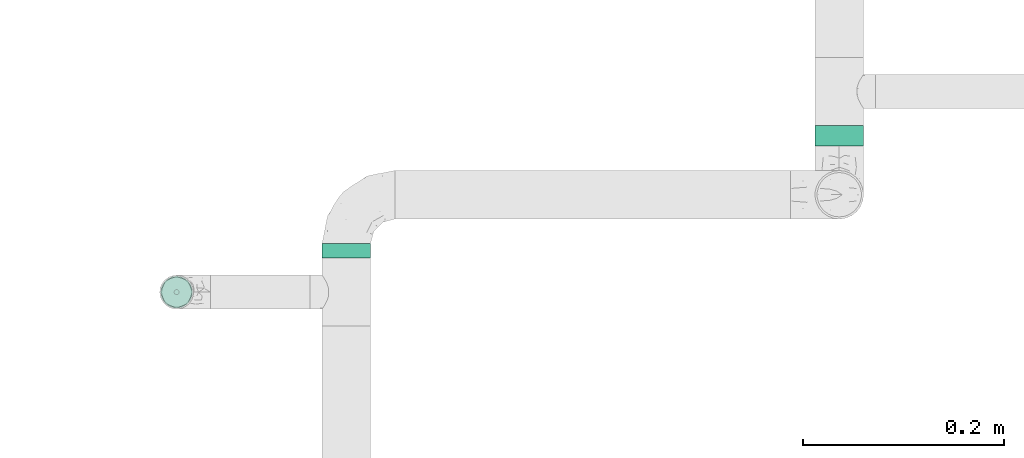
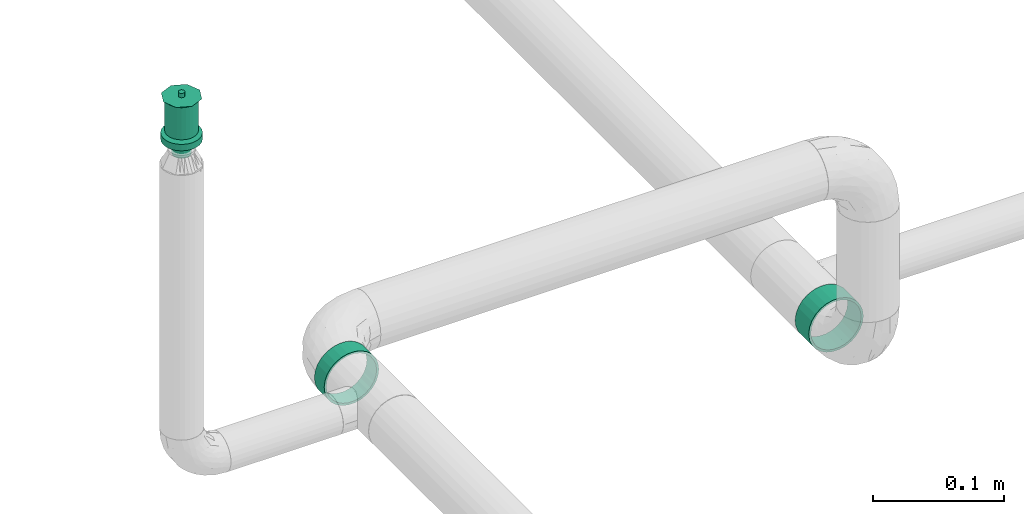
# One storey, part 49 of 157: 2 flow segments, 1 flow terminal.
"""IFC2X3 building model written with IfcOpenShell, lengths in millimetres."""

from ifc_helpers import new_model, entity, si_unit, converted_unit, derived_unit, direction, frame, origin_with_axes, origin_2d_with_axis, place, context, subcontext, project, spatial, hollow_circle, extrude, open_shell, surface_model, source, transform, mapped, type_object, element, save


model = new_model("IFC2X3")

# Units and contexts
model_context = context("Model", 3, precision=0.01, world=frame((0.0, 4.29681676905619e-09, 0.0)), true_north=direction((4.01073788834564e-13, 1.0)))
plan_context = context("Plan", 3, precision=0.01, world=frame((0.0, 4.29681676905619e-09, 0.0)), true_north=direction((4.01073788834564e-13, 1.0)))
body_context = subcontext(model_context, "Body", "Model", "MODEL_VIEW")
ifc_project = project(units=[converted_unit("PLANEANGLEUNIT", "DEGREE", entity("IfcPositiveLengthMeasure", 0.0174532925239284), si_unit("PLANEANGLEUNIT", "RADIAN"), dimensions=[0, 0, 0, 0, 0, 0, 0]), si_unit("AREAUNIT", "SQUARE_METRE"), si_unit("LENGTHUNIT", "METRE", prefix="MILLI"), si_unit("MASSUNIT", "GRAM", prefix="KILO"), si_unit("POWERUNIT", "WATT"), si_unit("PRESSUREUNIT", "PASCAL"), si_unit("FORCEUNIT", "NEWTON", prefix="KILO"), si_unit("ELECTRICCURRENTUNIT", "AMPERE"), si_unit("THERMODYNAMICTEMPERATUREUNIT", "DEGREE_CELSIUS"), si_unit("TIMEUNIT", "SECOND"), si_unit("VOLUMEUNIT", "CUBIC_METRE"), derived_unit("LINEARVELOCITYUNIT", [(si_unit("LENGTHUNIT", "METRE"), 1), (si_unit("TIMEUNIT", "SECOND"), -1)]), derived_unit("VOLUMETRICFLOWRATEUNIT", [(si_unit("VOLUMEUNIT", "CUBIC_METRE"), 1), (si_unit("TIMEUNIT", "SECOND"), -1)]), derived_unit("THERMALTRANSMITTANCEUNIT", [(si_unit("POWERUNIT", "WATT"), 1), (si_unit("THERMODYNAMICTEMPERATUREUNIT", "KELVIN"), -1), (si_unit("AREAUNIT", "SQUARE_METRE"), -1)])], contexts=[model_context, plan_context])

# Site, building, storey
site_placement = place(None, frame((0.0, -4.29681676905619e-09, 0.0), z_axis=(0.0, 0.0, 1.0), x_axis=(1.0, 0.0, 0.0)))
site = spatial("IfcSite", under=ifc_project, at=site_placement, CompositionType="ELEMENT")
building_placement = place(site_placement, frame((0.0, 4.29681676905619e-09, 0.0), z_axis=(0.0, 0.0, 1.0), x_axis=(1.0, 0.0, 0.0)))
building = spatial("IfcBuilding", under=site, at=building_placement, Name="mc-building", CompositionType="ELEMENT")
storey_placement = place(building_placement, frame((0.0, 0.0, 204000.0), z_axis=(0.0, 0.0, 1.0), x_axis=(1.0, 0.0, 0.0)))
storey = spatial("IfcBuildingStorey", under=building, at=storey_placement, Name="Nivå D", CompositionType="ELEMENT", Elevation=204000.0)

# Flow segments
pipe_segment_type = type_object("IfcPipeSegmentType", Name="Stålrør normaltykke", PredefinedType="RIGIDSEGMENT")
shared_shape_1 = source(origin_with_axes(), body_context, "Body", "SweptSolid", [
    extrude(hollow_circle(Radius=24.1, WallThickness=2.0, at=origin_2d_with_axis()), frame((0.0, 0.0, 0.0), z_axis=(1.0, 0.0, 0.0), x_axis=(0.0, 1.0, 0.0)), (0.0, 0.0, 1.0), 14.9),
])
flow_segment_1_placement = place(storey_placement, frame((530609.5, 407255.45, 2880.0), z_axis=(0.0, 0.0, 1.0), x_axis=(0.0, 1.0, 0.0)))
element("IfcFlowSegment", 1, at=flow_segment_1_placement, inside=storey, type_object=pipe_segment_type, Name="Stålrør normaltykke", context=body_context, shape_type="MappedRepresentation", body=[
    mapped(shared_shape_1, transform((0.0, 0.0, 0.0), scale=1.0)),
])
shared_shape_2 = source(origin_with_axes(), body_context, "Body", "SweptSolid", [
    extrude(hollow_circle(Radius=24.1, WallThickness=2.0, at=origin_2d_with_axis()), frame((0.0, 0.0, 0.0), z_axis=(1.0, 0.0, 0.0), x_axis=(0.0, 1.0, 0.0)), (0.0, 0.0, 1.0), 20.7),
])
flow_segment_2_placement = place(storey_placement, frame((531100.55939, 407367.10215, 2690.0), z_axis=(0.0, 0.0, 1.0), x_axis=(0.0, 1.0, 0.0)))
element("IfcFlowSegment", 2, at=flow_segment_2_placement, inside=storey, type_object=pipe_segment_type, Name="Stålrør normaltykke", context=body_context, shape_type="MappedRepresentation", body=[
    mapped(shared_shape_2, transform((0.0, 0.0, 0.0), scale=1.0)),
])

# Flow terminal
fire_suppression_terminal_type = type_object("IfcFireSuppressionTerminalType", Name="68DGR-STD-STÅENDE", PredefinedType="NOTDEFINED")
shared_shape_3 = source(origin_with_axes(), body_context, "Body", "SurfaceModel", [
    surface_model("IfcShellBasedSurfaceModel", [(3.36465, -12.55704, 51.0), (6.5, -11.25833, 51.0), (9.19239, -9.19239, 51.0), (12.55704, -3.36465, 51.0), (-11.25833, -6.5, 51.0), (11.25833, -6.5, 51.0), (-13.0, 0.0, 51.0), (0.0, -13.0, 51.0), (-6.5, -11.25833, 51.0), (-3.36465, -12.55704, 51.0), (-9.19239, -9.19239, 51.0), (-12.55704, -3.36465, 51.0), (13.0, 0.0, 51.0), (12.55704, 3.36465, 51.0), (11.25833, 6.5, 51.0), (9.19239, 9.19239, 51.0), (6.5, 11.25833, 51.0), (3.36465, 12.55704, 51.0), (0.0, 13.0, 51.0), (-3.36465, 12.55704, 51.0), (-12.55704, 3.36465, 51.0), (-9.19239, 9.19239, 51.0), (-11.25833, 6.5, 51.0), (-6.5, 11.25833, 51.0), (0.0, 13.0, 21.14766), (3.36465, 12.55704, 21.14766), (6.5, 11.25833, 21.14766), (-3.36465, 12.55704, 21.14766), (9.19239, 9.19239, 21.14766), (11.25833, 6.5, 21.14766), (12.55704, 3.36465, 21.14766), (-12.55704, 3.36465, 21.14766), (-11.25833, -6.5, 21.14766), (-9.19239, 9.19239, 21.14766), (-6.5, 11.25833, 21.14766), (-11.25833, 6.5, 21.14766), (-13.0, 0.0, 21.14766), (12.55704, -3.36465, 21.14766), (9.19239, -9.19239, 21.14766), (11.25833, -6.5, 21.14766), (6.5, -11.25833, 21.14766), (3.36465, -12.55704, 21.14766), (-6.5, -11.25833, 21.14766), (-9.19239, -9.19239, 21.14766), (-12.55704, -3.36465, 21.14766), (0.0, -13.0, 21.14766), (-3.36465, -12.55704, 21.14766), (13.0, 0.0, 21.14766), (7.24444, -1.94114, 0.1), (1.94114, -7.24444, 0.1), (3.75, -6.49519, 0.1), (5.3033, -5.3033, 0.1), (-5.3033, -5.3033, 0.1), (6.49519, -3.75, 0.1), (5.3033, 5.3033, 0.1), (0.0, -7.5, 0.1), (-3.75, -6.49519, 0.1), (-1.94114, -7.24444, 0.1), (-7.24444, -1.94114, 0.1), (-6.49519, -3.75, 0.1), (-7.24444, 1.94114, 0.1), (7.5, 0.0, 0.1), (6.49519, 3.75, 0.1), (-6.49519, 3.75, 0.1), (1.94114, 7.24444, 0.1), (0.0, 7.5, 0.1), (3.75, 6.49519, 0.1), (-7.5, 0.0, 0.1), (-5.3033, 5.3033, 0.1), (-1.94114, 7.24444, 0.1), (-3.75, 6.49519, 0.1), (7.24444, 1.94114, 0.1), (1.94114, 7.24444, -0.1), (-6.49519, 3.75, -0.1), (0.0, 7.5, -0.1), (5.3033, 5.3033, -0.1), (3.75, 6.49519, -0.1), (6.49519, 3.75, -0.1), (7.24444, 1.94114, -0.1), (-1.94114, 7.24444, -0.1), (-5.3033, 5.3033, -0.1), (-3.75, 6.49519, -0.1), (-7.24444, 1.94114, -0.1), (-7.24444, -1.94114, -0.1), (-7.5, 0.0, -0.1), (7.5, 0.0, -0.1), (7.24444, -1.94114, -0.1), (-5.3033, -5.3033, -0.1), (1.94114, -7.24444, -0.1), (6.49519, -3.75, -0.1), (5.3033, -5.3033, -0.1), (3.75, -6.49519, -0.1), (-6.49519, -3.75, -0.1), (-3.75, -6.49519, -0.1), (0.0, -7.5, -0.1), (-1.94114, -7.24444, -0.1), (0.0, -2.5, 51.0), (-2.5, 0.0, 51.0), (0.0, 2.5, 51.0), (2.5, 0.0, 51.0), (0.0, -16.0, 53.0), (11.31371, -11.31371, 53.0), (-11.31371, -11.31371, 53.0), (-16.0, 0.0, 53.0), (16.0, 0.0, 53.0), (11.31371, 11.31371, 53.0), (0.0, 16.0, 53.0), (-11.31371, 11.31371, 53.0), (1.25, -2.16506, 57.0), (0.0, -2.5, 57.0), (0.64705, -2.41481, 57.0), (2.41481, -0.64705, 57.0), (1.76777, -1.76777, 57.0), (-2.41481, -0.64705, 57.0), (-2.5, 0.0, 57.0), (2.16506, -1.25, 57.0), (-1.25, -2.16506, 57.0), (-0.64705, -2.41481, 57.0), (-1.76777, -1.76777, 57.0), (-2.16506, -1.25, 57.0), (2.5, 0.0, 57.0), (2.41481, 0.64705, 57.0), (2.16506, 1.25, 57.0), (1.76777, 1.76777, 57.0), (0.64705, 2.41481, 57.0), (1.25, 2.16506, 57.0), (-1.76777, 1.76777, 57.0), (0.0, 2.5, 57.0), (-2.16506, 1.25, 57.0), (-2.41481, 0.64705, 57.0), (-0.64705, 2.41481, 57.0), (-1.25, 2.16506, 57.0), (1.25, 2.16506, 51.0), (1.76777, 1.76777, 51.0), (1.15, 1.99186, 51.0), (0.59528, 2.22163, 51.0), (0.64705, 2.41481, 51.0), (0.0, 2.3, 51.0), (1.62635, 1.62635, 51.0), (2.41481, 0.64705, 51.0), (2.3, 0.0, 51.0), (2.22163, 0.59528, 51.0), (2.16506, 1.25, 51.0), (1.99186, 1.15, 51.0), (-0.59528, 2.22163, 51.0), (-0.64705, 2.41481, 51.0), (-1.15, 1.99186, 51.0), (-1.76777, 1.76777, 51.0), (-1.25, 2.16506, 51.0), (-1.62635, 1.62635, 51.0), (-1.99186, 1.15, 51.0), (-2.16506, 1.25, 51.0), (-2.22163, 0.59528, 51.0), (-2.41481, 0.64705, 51.0), (-2.3, 0.0, 51.0), (2.41481, -0.64705, 51.0), (2.22163, -0.59528, 51.0), (1.99186, -1.15, 51.0), (2.16506, -1.25, 51.0), (1.62635, -1.62635, 51.0), (1.76777, -1.76777, 51.0), (1.25, -2.16506, 51.0), (1.15, -1.99186, 51.0), (0.59528, -2.22163, 51.0), (0.64705, -2.41481, 51.0), (0.0, -2.3, 51.0), (-2.16506, -1.25, 51.0), (-1.99186, -1.15, 51.0), (-1.76777, -1.76777, 51.0), (-1.62635, -1.62635, 51.0), (-2.41481, -0.64705, 51.0), (-2.22163, -0.59528, 51.0), (-0.59528, -2.22163, 51.0), (-0.64705, -2.41481, 51.0), (-1.15, -1.99186, 51.0), (-1.25, -2.16506, 51.0), (1.62635, -1.62635, 56.8), (1.15, -1.99186, 56.8), (0.59528, -2.22163, 56.8), (0.0, -2.3, 56.8), (2.22163, 0.59528, 56.8), (1.99186, -1.15, 56.8), (2.22163, -0.59528, 56.8), (-0.59528, -2.22163, 56.8), (-1.15, -1.99186, 56.8), (-1.62635, -1.62635, 56.8), (-1.99186, -1.15, 56.8), (-2.22163, -0.59528, 56.8), (-1.99186, 1.15, 56.8), (2.3, 0.0, 56.8), (1.62635, 1.62635, 56.8), (1.99186, 1.15, 56.8), (1.15, 1.99186, 56.8), (0.0, 2.3, 56.8), (0.59528, 2.22163, 56.8), (-2.22163, 0.59528, 56.8), (-2.3, 0.0, 56.8), (-1.15, 1.99186, 56.8), (-0.59528, 2.22163, 56.8), (-1.62635, 1.62635, 56.8), (4.1411, -15.45481, 19.0), (8.0, -13.85641, 19.0), (11.31371, -11.31371, 19.0), (-8.0, -13.85641, 19.0), (15.45481, -4.1411, 19.0), (16.0, 0.0, 19.0), (13.85641, -8.0, 19.0), (0.0, -16.0, 19.0), (-4.1411, -15.45481, 19.0), (-13.85641, -8.0, 19.0), (-11.31371, -11.31371, 19.0), (-15.45481, -4.1411, 19.0), (15.45481, 4.1411, 19.0), (13.85641, 8.0, 19.0), (11.31371, 11.31371, 19.0), (-4.1411, 15.45481, 19.0), (8.0, 13.85641, 19.0), (4.1411, 15.45481, 19.0), (0.0, 16.0, 19.0), (-13.85641, 8.0, 19.0), (-15.45481, 4.1411, 19.0), (-16.0, 0.0, 19.0), (-11.31371, 11.31371, 19.0), (-8.0, 13.85641, 19.0), (0.0, 16.0, 13.0), (4.1411, 15.45481, 13.0), (8.0, 13.85641, 13.0), (-4.1411, 15.45481, 13.0), (11.31371, 11.31371, 13.0), (13.85641, 8.0, 13.0), (15.45481, 4.1411, 13.0), (-15.45481, -4.1411, 13.0), (-11.31371, 11.31371, 13.0), (-8.0, 13.85641, 13.0), (-13.85641, 8.0, 13.0), (-15.45481, 4.1411, 13.0), (-16.0, 0.0, 13.0), (4.1411, -15.45481, 13.0), (16.0, 0.0, 13.0), (15.45481, -4.1411, 13.0), (13.85641, -8.0, 13.0), (11.31371, -11.31371, 13.0), (8.0, -13.85641, 13.0), (-8.0, -13.85641, 13.0), (-13.85641, -8.0, 13.0), (-11.31371, -11.31371, 13.0), (0.0, -16.0, 13.0), (-4.1411, -15.45481, 13.0), (7.24444, -1.94114, 13.0), (1.94114, -7.24444, 13.0), (3.75, -6.49519, 13.0), (5.3033, -5.3033, 13.0), (-5.3033, -5.3033, 13.0), (6.49519, -3.75, 13.0), (5.3033, 5.3033, 13.0), (0.0, -7.5, 13.0), (-3.75, -6.49519, 13.0), (-1.94114, -7.24444, 13.0), (-7.24444, -1.94114, 13.0), (-6.49519, -3.75, 13.0), (-7.24444, 1.94114, 13.0), (7.5, 0.0, 13.0), (6.49519, 3.75, 13.0), (-6.49519, 3.75, 13.0), (1.94114, 7.24444, 13.0), (0.0, 7.5, 13.0), (3.75, 6.49519, 13.0), (-7.5, 0.0, 13.0), (-5.3033, 5.3033, 13.0), (-1.94114, 7.24444, 13.0), (-3.75, 6.49519, 13.0), (7.24444, 1.94114, 13.0), (3.75, 6.49519, 0.0), (5.3033, 5.3033, 0.0), (3.65, 6.32199, 0.0), (1.88938, 7.05126, 0.0), (0.0, 7.3, 0.0), (1.94114, 7.24444, 0.0), (0.0, 7.5, 0.0), (5.16188, 5.16188, 0.0), (7.24444, 1.94114, 0.0), (7.3, 0.0, 0.0), (7.05126, 1.88938, 0.0), (7.5, 0.0, 0.0), (6.49519, 3.75, 0.0), (6.32199, 3.65, 0.0), (-1.88938, 7.05126, 0.0), (-1.94114, 7.24444, 0.0), (-3.65, 6.32199, 0.0), (-5.3033, 5.3033, 0.0), (-3.75, 6.49519, 0.0), (-5.16188, 5.16188, 0.0), (-6.32199, 3.65, 0.0), (-6.49519, 3.75, 0.0), (-7.05126, 1.88938, 0.0), (-7.24444, 1.94114, 0.0), (-7.3, 0.0, 0.0), (-7.5, 0.0, 0.0), (7.24444, -1.94114, 0.0), (7.05126, -1.88938, 0.0), (6.32199, -3.65, 0.0), (6.49519, -3.75, 0.0), (5.16188, -5.16188, 0.0), (5.3033, -5.3033, 0.0), (3.75, -6.49519, 0.0), (3.65, -6.32199, 0.0), (1.88938, -7.05126, 0.0), (1.94114, -7.24444, 0.0), (0.0, -7.3, 0.0), (0.0, -7.5, 0.0), (-6.49519, -3.75, 0.0), (-6.32199, -3.65, 0.0), (-5.3033, -5.3033, 0.0), (-5.16188, -5.16188, 0.0), (-7.24444, -1.94114, 0.0), (-7.05126, -1.88938, 0.0), (-1.88938, -7.05126, 0.0), (-1.94114, -7.24444, 0.0), (-3.65, -6.32199, 0.0), (-3.75, -6.49519, 0.0), (1.88938, -7.05126, 12.8), (0.0, -7.3, 12.8), (3.65, -6.32199, 12.8), (5.16188, -5.16188, 12.8), (6.32199, -3.65, 12.8), (7.05126, 1.88938, 12.8), (7.05126, -1.88938, 12.8), (-5.16188, -5.16188, 12.8), (-1.88938, -7.05126, 12.8), (-3.65, -6.32199, 12.8), (-6.32199, -3.65, 12.8), (-7.05126, -1.88938, 12.8), (0.0, 7.3, 12.8), (7.3, 0.0, 12.8), (6.32199, 3.65, 12.8), (5.16188, 5.16188, 12.8), (3.65, 6.32199, 12.8), (1.88938, 7.05126, 12.8), (-6.32199, 3.65, 12.8), (-7.05126, 1.88938, 12.8), (-7.3, 0.0, 12.8), (-3.65, 6.32199, 12.8), (-1.88938, 7.05126, 12.8), (-5.16188, 5.16188, 12.8)], [open_shell([[[0, 1, 2]], [[0, 2, 3]], [[0, 3, 4]], [[3, 2, 5]], [[6, 4, 3]], [[7, 8, 9]], [[7, 0, 8]], [[8, 4, 10]], [[0, 4, 8]], [[4, 6, 11]], [[6, 3, 12]], [[13, 14, 15]], [[6, 13, 15]], [[16, 17, 18]], [[15, 16, 19]], [[18, 19, 16]], [[20, 21, 22]], [[20, 6, 15]], [[21, 19, 23]], [[19, 21, 20]], [[15, 19, 20]], [[13, 6, 12]], [[24, 25, 26]], [[27, 24, 26]], [[28, 29, 30]], [[26, 28, 31]], [[28, 32, 31]], [[27, 33, 34]], [[33, 27, 31]], [[33, 31, 35]], [[27, 26, 31]], [[31, 32, 36]], [[32, 28, 30]], [[32, 30, 37]], [[38, 37, 39]], [[38, 40, 41]], [[38, 41, 37]], [[32, 37, 41]], [[32, 42, 43]], [[44, 36, 32]], [[42, 45, 46]], [[42, 32, 41]], [[45, 42, 41]], [[30, 47, 37]], [[4, 32, 43]], [[8, 42, 46]], [[43, 42, 10]], [[9, 46, 45]], [[36, 11, 6]], [[11, 36, 44]], [[11, 44, 4]], [[44, 32, 4]], [[43, 10, 4]], [[8, 10, 42]], [[46, 9, 8]], [[45, 7, 9]], [[0, 41, 40]], [[38, 1, 40]], [[5, 39, 37]], [[38, 39, 2]], [[3, 37, 47]], [[41, 0, 7]], [[40, 1, 0]], [[38, 2, 1]], [[39, 5, 2]], [[3, 5, 37]], [[47, 12, 3]], [[41, 7, 45]], [[30, 13, 47]], [[29, 14, 30]], [[25, 24, 17]], [[15, 29, 28]], [[30, 14, 13]], [[13, 12, 47]], [[16, 26, 17]], [[16, 15, 28]], [[26, 25, 17]], [[15, 14, 29]], [[28, 26, 16]], [[24, 18, 17]], [[19, 27, 34]], [[33, 23, 34]], [[22, 35, 31]], [[33, 35, 21]], [[20, 31, 36]], [[27, 19, 18]], [[34, 23, 19]], [[33, 21, 23]], [[35, 22, 21]], [[20, 22, 31]], [[36, 6, 20]], [[27, 18, 24]], [[48, 49, 50]], [[48, 50, 51]], [[49, 48, 52]], [[48, 51, 53]], [[54, 52, 48]], [[55, 56, 57]], [[56, 55, 52]], [[52, 58, 59]], [[52, 55, 49]], [[52, 60, 58]], [[54, 48, 61]], [[62, 54, 61]], [[54, 63, 52]], [[64, 65, 54]], [[64, 54, 66]], [[63, 54, 65]], [[63, 60, 52]], [[67, 58, 60]], [[68, 69, 70]], [[69, 68, 63]], [[69, 63, 65]], [[71, 62, 61]], [[72, 73, 74]], [[75, 72, 76]], [[75, 77, 78]], [[72, 75, 73]], [[78, 73, 75]], [[79, 80, 81]], [[80, 79, 73]], [[74, 73, 79]], [[78, 82, 73]], [[82, 83, 84]], [[82, 78, 85]], [[86, 87, 85]], [[88, 86, 89]], [[90, 91, 88]], [[90, 88, 89]], [[87, 86, 88]], [[83, 87, 92]], [[83, 85, 87]], [[93, 94, 95]], [[94, 93, 87]], [[88, 94, 87]], [[85, 83, 82]], [[83, 58, 84]], [[92, 59, 83]], [[56, 87, 93]], [[92, 87, 52]], [[57, 93, 95]], [[83, 59, 58]], [[58, 67, 84]], [[57, 56, 93]], [[52, 87, 56]], [[52, 59, 92]], [[55, 57, 95]], [[95, 94, 55]], [[88, 49, 94]], [[91, 50, 88]], [[53, 90, 89]], [[91, 90, 51]], [[48, 89, 86]], [[91, 51, 50]], [[50, 49, 88]], [[61, 48, 86]], [[53, 89, 48]], [[53, 51, 90]], [[85, 61, 86]], [[94, 49, 55]], [[78, 71, 85]], [[77, 62, 78]], [[66, 75, 76]], [[77, 75, 54]], [[64, 76, 72]], [[78, 62, 71]], [[71, 61, 85]], [[64, 66, 76]], [[54, 75, 66]], [[54, 62, 77]], [[65, 64, 72]], [[72, 74, 65]], [[79, 69, 74]], [[81, 70, 79]], [[63, 80, 73]], [[81, 80, 68]], [[60, 73, 82]], [[81, 68, 70]], [[70, 69, 79]], [[67, 60, 82]], [[63, 73, 60]], [[63, 68, 80]], [[84, 67, 82]], [[74, 69, 65]], [[96, 97, 98]], [[98, 99, 96]], [[100, 101, 102]], [[103, 102, 101]], [[101, 104, 103]], [[104, 105, 106]], [[107, 103, 106]], [[106, 103, 104]], [[99, 98, 105]], [[105, 104, 99]], [[98, 106, 105]], [[98, 107, 106]], [[107, 98, 97]], [[103, 107, 97]], [[97, 96, 102]], [[102, 103, 97]], [[96, 100, 102]], [[96, 101, 100]], [[101, 96, 99]], [[104, 101, 99]], [[108, 109, 110]], [[111, 108, 112]], [[113, 108, 114]], [[111, 112, 115]], [[108, 111, 114]], [[109, 116, 117]], [[116, 109, 118]], [[118, 113, 119]], [[118, 109, 108]], [[108, 113, 118]], [[111, 120, 114]], [[121, 122, 123]], [[114, 121, 123]], [[114, 123, 124]], [[124, 123, 125]], [[126, 124, 127]], [[124, 128, 129]], [[129, 114, 124]], [[126, 130, 131]], [[128, 124, 126]], [[130, 126, 127]], [[121, 114, 120]], [[132, 133, 134]], [[132, 134, 135]], [[136, 135, 137]], [[135, 136, 132]], [[136, 137, 98]], [[134, 133, 138]], [[139, 140, 141]], [[140, 139, 99]], [[139, 141, 142]], [[138, 142, 143]], [[142, 138, 133]], [[143, 142, 141]], [[98, 144, 145]], [[98, 137, 144]], [[145, 144, 146]], [[147, 148, 149]], [[146, 148, 145]], [[149, 148, 146]], [[150, 151, 147]], [[151, 150, 152]], [[150, 147, 149]], [[153, 152, 154]], [[152, 153, 151]], [[153, 154, 97]], [[99, 155, 156]], [[156, 155, 157]], [[157, 158, 159]], [[158, 157, 155]], [[159, 158, 160]], [[160, 161, 162]], [[162, 161, 163]], [[163, 164, 165]], [[164, 163, 161]], [[165, 164, 96]], [[162, 159, 160]], [[166, 167, 168]], [[168, 167, 169]], [[167, 166, 170]], [[97, 171, 170]], [[170, 171, 167]], [[97, 154, 171]], [[172, 96, 173]], [[172, 173, 174]], [[169, 175, 168]], [[175, 169, 174]], [[175, 174, 173]], [[165, 96, 172]], [[156, 140, 99]], [[170, 113, 97]], [[166, 119, 170]], [[116, 168, 175]], [[166, 168, 118]], [[117, 175, 173]], [[170, 119, 113]], [[113, 114, 97]], [[117, 116, 175]], [[118, 168, 116]], [[118, 119, 166]], [[109, 117, 173]], [[173, 96, 109]], [[164, 110, 96]], [[161, 108, 164]], [[115, 160, 158]], [[161, 160, 112]], [[111, 158, 155]], [[161, 112, 108]], [[108, 110, 164]], [[120, 111, 155]], [[115, 158, 111]], [[115, 112, 160]], [[99, 120, 155]], [[96, 110, 109]], [[139, 121, 99]], [[142, 122, 139]], [[125, 133, 132]], [[142, 133, 123]], [[124, 132, 136]], [[139, 122, 121]], [[121, 120, 99]], [[124, 125, 132]], [[123, 133, 125]], [[123, 122, 142]], [[127, 124, 136]], [[136, 98, 127]], [[145, 130, 98]], [[148, 131, 145]], [[128, 147, 151]], [[148, 147, 126]], [[129, 151, 153]], [[148, 126, 131]], [[131, 130, 145]], [[114, 129, 153]], [[128, 151, 129]], [[128, 126, 147]], [[97, 114, 153]], [[98, 130, 127]], [[176, 177, 178]], [[176, 178, 179]], [[180, 176, 179]], [[181, 176, 182]], [[180, 182, 176]], [[183, 184, 179]], [[185, 179, 184]], [[186, 187, 185]], [[185, 187, 188]], [[179, 185, 188]], [[189, 182, 180]], [[190, 191, 180]], [[192, 190, 180]], [[193, 194, 192]], [[180, 193, 192]], [[188, 193, 180]], [[195, 188, 196]], [[196, 188, 187]], [[197, 198, 199]], [[188, 199, 198]], [[188, 198, 193]], [[180, 179, 188]], [[154, 187, 171]], [[171, 186, 167]], [[174, 169, 184]], [[185, 169, 167]], [[172, 174, 183]], [[187, 186, 171]], [[154, 196, 187]], [[174, 184, 183]], [[184, 169, 185]], [[167, 186, 185]], [[172, 183, 179]], [[179, 165, 172]], [[165, 178, 163]], [[163, 177, 162]], [[157, 159, 181]], [[176, 159, 162]], [[156, 157, 182]], [[177, 176, 162]], [[163, 178, 177]], [[156, 182, 189]], [[182, 157, 181]], [[159, 176, 181]], [[156, 189, 140]], [[179, 178, 165]], [[140, 180, 141]], [[141, 191, 143]], [[134, 138, 192]], [[190, 138, 143]], [[135, 134, 194]], [[180, 191, 141]], [[140, 189, 180]], [[134, 192, 194]], [[192, 138, 190]], [[143, 191, 190]], [[135, 194, 193]], [[193, 137, 135]], [[137, 198, 144]], [[144, 197, 146]], [[150, 149, 188]], [[199, 149, 146]], [[152, 150, 195]], [[197, 199, 146]], [[144, 198, 197]], [[152, 195, 196]], [[195, 150, 188]], [[149, 199, 188]], [[152, 196, 154]], [[193, 198, 137]], [[200, 201, 202]], [[203, 200, 202]], [[204, 205, 202]], [[204, 202, 206]], [[203, 202, 205]], [[207, 203, 208]], [[207, 200, 203]], [[203, 209, 210]], [[209, 203, 211]], [[205, 211, 203]], [[205, 212, 211]], [[212, 213, 214]], [[215, 212, 214]], [[216, 217, 218]], [[214, 216, 215]], [[218, 215, 216]], [[211, 219, 220]], [[221, 211, 220]], [[222, 215, 223]], [[215, 222, 219]], [[219, 211, 215]], [[211, 212, 215]], [[224, 225, 226]], [[227, 224, 226]], [[228, 229, 230]], [[227, 226, 228]], [[227, 228, 231]], [[227, 232, 233]], [[232, 227, 234]], [[234, 231, 235]], [[231, 234, 227]], [[235, 231, 236]], [[228, 230, 231]], [[237, 238, 239]], [[237, 239, 240]], [[241, 242, 237]], [[241, 237, 240]], [[238, 237, 243]], [[244, 243, 245]], [[243, 244, 231]], [[243, 246, 247]], [[243, 231, 238]], [[237, 246, 243]], [[238, 231, 230]], [[231, 211, 236]], [[244, 209, 231]], [[203, 245, 243]], [[244, 245, 210]], [[208, 243, 247]], [[231, 209, 211]], [[211, 221, 236]], [[208, 203, 243]], [[210, 245, 203]], [[210, 209, 244]], [[207, 208, 247]], [[247, 246, 207]], [[237, 200, 246]], [[242, 201, 237]], [[206, 241, 240]], [[242, 241, 202]], [[204, 240, 239]], [[242, 202, 201]], [[201, 200, 237]], [[205, 204, 239]], [[206, 240, 204]], [[206, 202, 241]], [[238, 205, 239]], [[246, 200, 207]], [[230, 212, 238]], [[229, 213, 230]], [[216, 228, 226]], [[229, 228, 214]], [[217, 226, 225]], [[230, 213, 212]], [[212, 205, 238]], [[217, 216, 226]], [[214, 228, 216]], [[214, 213, 229]], [[218, 217, 225]], [[225, 224, 218]], [[227, 215, 224]], [[233, 223, 227]], [[219, 232, 234]], [[233, 232, 222]], [[220, 234, 235]], [[233, 222, 223]], [[223, 215, 227]], [[221, 220, 235]], [[219, 234, 220]], [[219, 222, 232]], [[236, 221, 235]], [[224, 215, 218]], [[248, 249, 250]], [[248, 250, 251]], [[249, 248, 252]], [[248, 251, 253]], [[254, 252, 248]], [[255, 256, 257]], [[256, 255, 252]], [[252, 258, 259]], [[252, 255, 249]], [[252, 260, 258]], [[254, 248, 261]], [[262, 254, 261]], [[254, 263, 252]], [[264, 265, 254]], [[264, 254, 266]], [[263, 254, 265]], [[263, 260, 252]], [[267, 258, 260]], [[268, 269, 270]], [[269, 268, 263]], [[269, 263, 265]], [[271, 262, 261]], [[272, 273, 274]], [[272, 274, 275]], [[276, 277, 275]], [[277, 276, 278]], [[275, 277, 272]], [[274, 273, 279]], [[280, 281, 282]], [[281, 280, 283]], [[280, 282, 284]], [[279, 284, 285]], [[284, 279, 273]], [[285, 284, 282]], [[278, 286, 287]], [[287, 286, 288]], [[289, 290, 291]], [[288, 290, 287]], [[288, 291, 290]], [[278, 276, 286]], [[292, 293, 289]], [[293, 292, 294]], [[292, 289, 291]], [[295, 294, 296]], [[294, 295, 293]], [[295, 296, 297]], [[283, 298, 299]], [[299, 298, 300]], [[300, 301, 302]], [[301, 300, 298]], [[302, 301, 303]], [[303, 304, 305]], [[305, 304, 306]], [[306, 307, 308]], [[307, 306, 304]], [[308, 307, 309]], [[305, 302, 303]], [[310, 311, 312]], [[312, 311, 313]], [[311, 310, 314]], [[297, 315, 314]], [[314, 315, 311]], [[297, 296, 315]], [[316, 309, 317]], [[316, 317, 318]], [[313, 319, 312]], [[313, 318, 319]], [[319, 318, 317]], [[308, 309, 316]], [[299, 281, 283]], [[314, 258, 297]], [[310, 259, 314]], [[256, 312, 319]], [[310, 312, 252]], [[257, 319, 317]], [[314, 259, 258]], [[258, 267, 297]], [[257, 256, 319]], [[252, 312, 256]], [[252, 259, 310]], [[255, 257, 317]], [[317, 309, 255]], [[307, 249, 309]], [[304, 250, 307]], [[253, 303, 301]], [[304, 303, 251]], [[248, 301, 298]], [[304, 251, 250]], [[250, 249, 307]], [[261, 248, 298]], [[253, 301, 248]], [[253, 251, 303]], [[283, 261, 298]], [[309, 249, 255]], [[280, 271, 283]], [[284, 262, 280]], [[266, 273, 272]], [[284, 273, 254]], [[264, 272, 277]], [[280, 262, 271]], [[271, 261, 283]], [[264, 266, 272]], [[254, 273, 266]], [[254, 262, 284]], [[265, 264, 277]], [[277, 278, 265]], [[287, 269, 278]], [[290, 270, 287]], [[263, 289, 293]], [[290, 289, 268]], [[260, 293, 295]], [[290, 268, 270]], [[270, 269, 287]], [[267, 260, 295]], [[263, 293, 260]], [[263, 268, 289]], [[297, 267, 295]], [[278, 269, 265]], [[320, 321, 322]], [[323, 322, 324]], [[325, 326, 322]], [[324, 322, 326]], [[322, 327, 325]], [[328, 329, 321]], [[327, 321, 329]], [[330, 331, 327]], [[322, 321, 327]], [[331, 332, 327]], [[326, 325, 333]], [[334, 325, 332]], [[335, 334, 336]], [[332, 337, 336]], [[334, 332, 336]], [[331, 338, 332]], [[339, 338, 340]], [[340, 338, 331]], [[341, 342, 343]], [[332, 338, 343]], [[332, 343, 342]], [[332, 325, 327]], [[296, 331, 315]], [[315, 330, 311]], [[318, 313, 329]], [[327, 313, 311]], [[316, 318, 328]], [[331, 330, 315]], [[296, 340, 331]], [[318, 329, 328]], [[329, 313, 327]], [[311, 330, 327]], [[316, 328, 321]], [[321, 308, 316]], [[308, 320, 306]], [[306, 322, 305]], [[300, 302, 324]], [[323, 302, 305]], [[299, 300, 326]], [[322, 323, 305]], [[306, 320, 322]], [[299, 326, 333]], [[326, 300, 324]], [[302, 323, 324]], [[299, 333, 281]], [[321, 320, 308]], [[281, 325, 282]], [[282, 334, 285]], [[274, 279, 336]], [[335, 279, 285]], [[275, 274, 337]], [[325, 334, 282]], [[281, 333, 325]], [[274, 336, 337]], [[336, 279, 335]], [[285, 334, 335]], [[275, 337, 332]], [[332, 276, 275]], [[276, 342, 286]], [[286, 341, 288]], [[292, 291, 338]], [[343, 291, 288]], [[294, 292, 339]], [[341, 343, 288]], [[286, 342, 341]], [[294, 339, 340]], [[339, 292, 338]], [[291, 343, 338]], [[294, 340, 296]], [[332, 342, 276]]])]),
])
flow_terminal_placement = place(storey_placement, frame((530440.35, 407221.65, 3169.5), z_axis=(0.0, 0.0, 1.0), x_axis=(1.0, 0.0, 0.0)))
element("IfcFlowTerminal", 3, at=flow_terminal_placement, inside=storey, type_object=fire_suppression_terminal_type, Name="68DGR-STD-STÅENDE", context=body_context, shape_type="MappedRepresentation", body=[
    mapped(shared_shape_3, transform((0.0, 0.0, 0.0), scale=1.0)),
])

save(model, "model.ifc")
